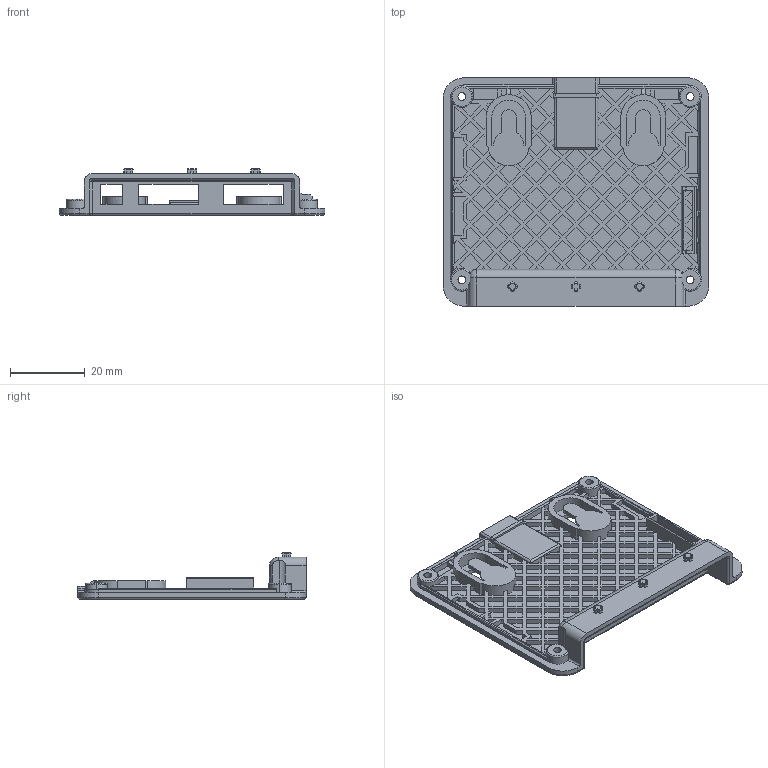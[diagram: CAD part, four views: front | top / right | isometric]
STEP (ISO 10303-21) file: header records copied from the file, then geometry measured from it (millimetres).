
FILE_DESCRIPTION (( 'STEP AP214' ), '1' );
FILE_NAME ('LITE_BOT_0104.STEP', '2022-01-04T03:41:48', ( '' ), ( '' ), 'SwSTEP 2.0', 'SolidWorks 2019', '' );
FILE_SCHEMA (( 'AUTOMOTIVE_DESIGN' ));
Length unit declared in the file: millimetre
Products named in the file (1): LITE_BOT_0104
Bounding box: 71 x 61 x 12.4 mm (x, y, z)
Volume: 9145.2 mm3; surface area: 13933 mm2
Topology: 1 solids, 1 shells, 1109 faces, 3000 edges, 1947 vertices
Faces by surface type: plane 868, cylinder 157, torus 42, cone 30, sphere 8, bspline 4
Entity records: 34590 total; most frequent: CARTESIAN_POINT 6585, ORIENTED_EDGE 5976, DIRECTION 5524, EDGE_CURVE 2988, LINE 2462, VECTOR 2462, VERTEX_POINT 1947, AXIS2_PLACEMENT_3D 1531
